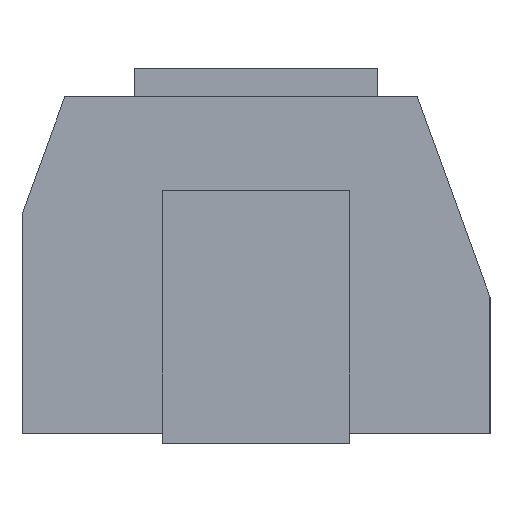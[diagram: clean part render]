
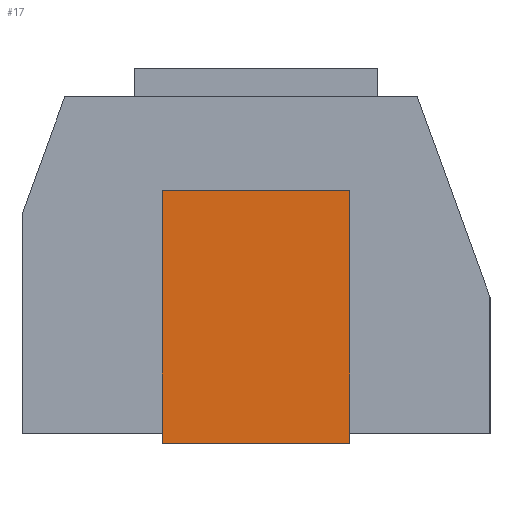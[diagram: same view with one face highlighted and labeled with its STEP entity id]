
A CAD part, left-side view. The second image highlights one B-rep face of the part: STEP entity #17.
In plain terms, the highlighted planar face has unit normal (-1, 0, 0).
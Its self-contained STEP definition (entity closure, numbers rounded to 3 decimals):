
#17 = ADVANCED_FACE('',(#18),#32,.F.);
#18 = FACE_BOUND('',#19,.F.);
#19 = EDGE_LOOP('',(#20,#55,#83,#111));
#20 = ORIENTED_EDGE('',*,*,#21,.F.);
#21 = EDGE_CURVE('',#22,#24,#26,.T.);
#22 = VERTEX_POINT('',#23);
#23 = CARTESIAN_POINT('',(-4.85,-1.,0.));
#24 = VERTEX_POINT('',#25);
#25 = CARTESIAN_POINT('',(-4.85,-1.,2.7));
#26 = SURFACE_CURVE('',#27,(#31,#43),.PCURVE_S1.);
#27 = LINE('',#28,#29);
#28 = CARTESIAN_POINT('',(-4.85,-1.,0.));
#29 = VECTOR('',#30,1.);
#30 = DIRECTION('',(0.,0.,1.));
#31 = PCURVE('',#32,#37);
#32 = PLANE('',#33);
#33 = AXIS2_PLACEMENT_3D('',#34,#35,#36);
#34 = CARTESIAN_POINT('',(-4.85,-1.,0.));
#35 = DIRECTION('',(1.,0.,0.));
#36 = DIRECTION('',(0.,0.,1.));
#37 = DEFINITIONAL_REPRESENTATION('',(#38),#42);
#38 = LINE('',#39,#40);
#39 = CARTESIAN_POINT('',(0.,0.));
#40 = VECTOR('',#41,1.);
#41 = DIRECTION('',(1.,0.));
#42 = ( GEOMETRIC_REPRESENTATION_CONTEXT(2) 
PARAMETRIC_REPRESENTATION_CONTEXT() REPRESENTATION_CONTEXT('2D SPACE',''
  ) );
#43 = PCURVE('',#44,#49);
#44 = PLANE('',#45);
#45 = AXIS2_PLACEMENT_3D('',#46,#47,#48);
#46 = CARTESIAN_POINT('',(-4.85,-1.,0.));
#47 = DIRECTION('',(0.,1.,0.));
#48 = DIRECTION('',(0.,0.,1.));
#49 = DEFINITIONAL_REPRESENTATION('',(#50),#54);
#50 = LINE('',#51,#52);
#51 = CARTESIAN_POINT('',(0.,0.));
#52 = VECTOR('',#53,1.);
#53 = DIRECTION('',(1.,0.));
#54 = ( GEOMETRIC_REPRESENTATION_CONTEXT(2) 
PARAMETRIC_REPRESENTATION_CONTEXT() REPRESENTATION_CONTEXT('2D SPACE',''
  ) );
#55 = ORIENTED_EDGE('',*,*,#56,.T.);
#56 = EDGE_CURVE('',#22,#57,#59,.T.);
#57 = VERTEX_POINT('',#58);
#58 = CARTESIAN_POINT('',(-4.85,1.,0.));
#59 = SURFACE_CURVE('',#60,(#64,#71),.PCURVE_S1.);
#60 = LINE('',#61,#62);
#61 = CARTESIAN_POINT('',(-4.85,-1.,0.));
#62 = VECTOR('',#63,1.);
#63 = DIRECTION('',(0.,1.,0.));
#64 = PCURVE('',#32,#65);
#65 = DEFINITIONAL_REPRESENTATION('',(#66),#70);
#66 = LINE('',#67,#68);
#67 = CARTESIAN_POINT('',(0.,0.));
#68 = VECTOR('',#69,1.);
#69 = DIRECTION('',(0.,-1.));
#70 = ( GEOMETRIC_REPRESENTATION_CONTEXT(2) 
PARAMETRIC_REPRESENTATION_CONTEXT() REPRESENTATION_CONTEXT('2D SPACE',''
  ) );
#71 = PCURVE('',#72,#77);
#72 = PLANE('',#73);
#73 = AXIS2_PLACEMENT_3D('',#74,#75,#76);
#74 = CARTESIAN_POINT('',(-4.85,-1.,0.));
#75 = DIRECTION('',(0.,0.,1.));
#76 = DIRECTION('',(1.,0.,0.));
#77 = DEFINITIONAL_REPRESENTATION('',(#78),#82);
#78 = LINE('',#79,#80);
#79 = CARTESIAN_POINT('',(0.,0.));
#80 = VECTOR('',#81,1.);
#81 = DIRECTION('',(0.,1.));
#82 = ( GEOMETRIC_REPRESENTATION_CONTEXT(2) 
PARAMETRIC_REPRESENTATION_CONTEXT() REPRESENTATION_CONTEXT('2D SPACE',''
  ) );
#83 = ORIENTED_EDGE('',*,*,#84,.T.);
#84 = EDGE_CURVE('',#57,#85,#87,.T.);
#85 = VERTEX_POINT('',#86);
#86 = CARTESIAN_POINT('',(-4.85,1.,2.7));
#87 = SURFACE_CURVE('',#88,(#92,#99),.PCURVE_S1.);
#88 = LINE('',#89,#90);
#89 = CARTESIAN_POINT('',(-4.85,1.,0.));
#90 = VECTOR('',#91,1.);
#91 = DIRECTION('',(0.,0.,1.));
#92 = PCURVE('',#32,#93);
#93 = DEFINITIONAL_REPRESENTATION('',(#94),#98);
#94 = LINE('',#95,#96);
#95 = CARTESIAN_POINT('',(0.,-2.));
#96 = VECTOR('',#97,1.);
#97 = DIRECTION('',(1.,0.));
#98 = ( GEOMETRIC_REPRESENTATION_CONTEXT(2) 
PARAMETRIC_REPRESENTATION_CONTEXT() REPRESENTATION_CONTEXT('2D SPACE',''
  ) );
#99 = PCURVE('',#100,#105);
#100 = PLANE('',#101);
#101 = AXIS2_PLACEMENT_3D('',#102,#103,#104);
#102 = CARTESIAN_POINT('',(-4.85,1.,0.));
#103 = DIRECTION('',(0.,1.,0.));
#104 = DIRECTION('',(0.,0.,1.));
#105 = DEFINITIONAL_REPRESENTATION('',(#106),#110);
#106 = LINE('',#107,#108);
#107 = CARTESIAN_POINT('',(0.,0.));
#108 = VECTOR('',#109,1.);
#109 = DIRECTION('',(1.,0.));
#110 = ( GEOMETRIC_REPRESENTATION_CONTEXT(2) 
PARAMETRIC_REPRESENTATION_CONTEXT() REPRESENTATION_CONTEXT('2D SPACE',''
  ) );
#111 = ORIENTED_EDGE('',*,*,#112,.F.);
#112 = EDGE_CURVE('',#24,#85,#113,.T.);
#113 = SURFACE_CURVE('',#114,(#118,#125),.PCURVE_S1.);
#114 = LINE('',#115,#116);
#115 = CARTESIAN_POINT('',(-4.85,-1.,2.7));
#116 = VECTOR('',#117,1.);
#117 = DIRECTION('',(0.,1.,0.));
#118 = PCURVE('',#32,#119);
#119 = DEFINITIONAL_REPRESENTATION('',(#120),#124);
#120 = LINE('',#121,#122);
#121 = CARTESIAN_POINT('',(2.7,0.));
#122 = VECTOR('',#123,1.);
#123 = DIRECTION('',(0.,-1.));
#124 = ( GEOMETRIC_REPRESENTATION_CONTEXT(2) 
PARAMETRIC_REPRESENTATION_CONTEXT() REPRESENTATION_CONTEXT('2D SPACE',''
  ) );
#125 = PCURVE('',#126,#131);
#126 = PLANE('',#127);
#127 = AXIS2_PLACEMENT_3D('',#128,#129,#130);
#128 = CARTESIAN_POINT('',(-4.85,-1.,2.7));
#129 = DIRECTION('',(0.,0.,1.));
#130 = DIRECTION('',(1.,0.,0.));
#131 = DEFINITIONAL_REPRESENTATION('',(#132),#136);
#132 = LINE('',#133,#134);
#133 = CARTESIAN_POINT('',(0.,0.));
#134 = VECTOR('',#135,1.);
#135 = DIRECTION('',(0.,1.));
#136 = ( GEOMETRIC_REPRESENTATION_CONTEXT(2) 
PARAMETRIC_REPRESENTATION_CONTEXT() REPRESENTATION_CONTEXT('2D SPACE',''
  ) );
